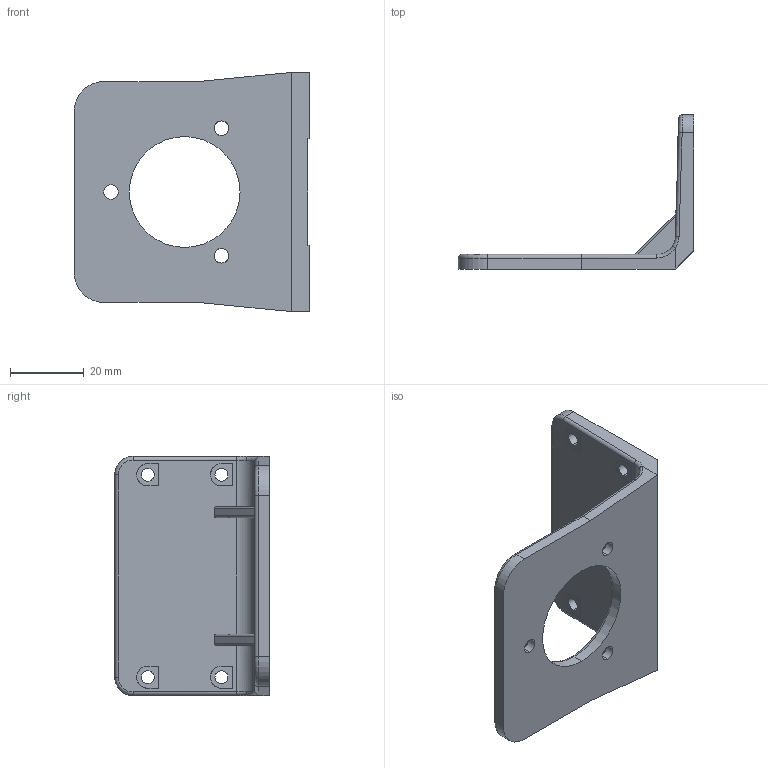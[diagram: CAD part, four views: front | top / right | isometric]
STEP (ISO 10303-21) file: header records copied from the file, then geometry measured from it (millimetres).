
FILE_DESCRIPTION (( 'STEP AP203' ), '1' );
FILE_NAME ('50臏翉盓殤.STEP', '2021-07-26T02:28:48', ( 'Windows 蚚誧' ), ( '' ), 'SwSTEP 2.0', 'SolidWorks 2018', '' );
FILE_SCHEMA (( 'CONFIG_CONTROL_DESIGN' ));
Length unit declared in the file: millimetre
Products named in the file (1): 50臏翉盓殤
Bounding box: 64 x 42 x 65 mm (x, y, z)
Volume: 21509.8 mm3; surface area: 13252.5 mm2
Topology: 1 solids, 1 shells, 192 faces, 516 edges, 334 vertices
Faces by surface type: cylinder 105, plane 71, torus 8, cone 6, bspline 2
Entity records: 6925 total; most frequent: CARTESIAN_POINT 2027, ORIENTED_EDGE 1032, DIRECTION 987, EDGE_CURVE 516, AXIS2_PLACEMENT_3D 367, VERTEX_POINT 334, VECTOR 253, LINE 253
